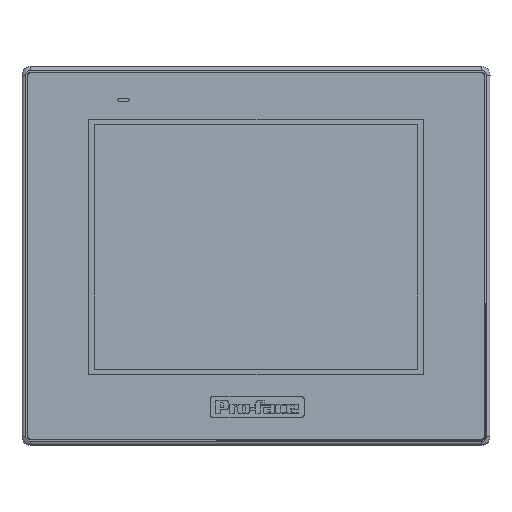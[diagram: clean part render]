
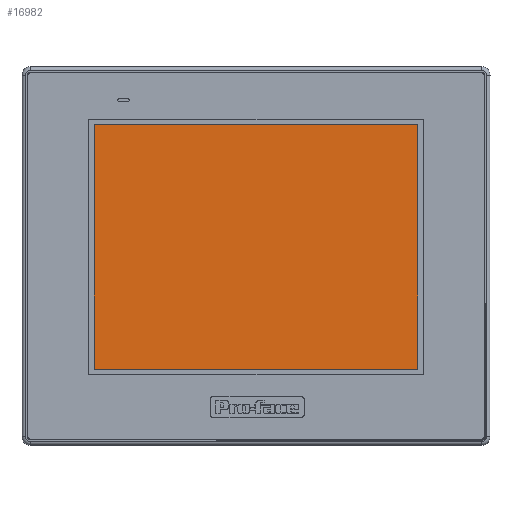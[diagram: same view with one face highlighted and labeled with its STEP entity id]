
A CAD part, top view. The second image highlights one B-rep face of the part: STEP entity #16982.
In plain terms, the highlighted planar face has unit normal (0, 0, 1).
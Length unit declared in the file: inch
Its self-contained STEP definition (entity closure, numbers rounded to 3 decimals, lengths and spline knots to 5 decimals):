
#3470=DIRECTION('',(-1.,0.,0.));
#3471=VECTOR('',#3470,4.61811);
#3472=CARTESIAN_POINT('',(5.64567,4.57087,2.35827));
#3473=LINE('',#3472,#3471);
#3478=DIRECTION('',(0.,1.,0.));
#3479=VECTOR('',#3478,3.48819);
#3480=CARTESIAN_POINT('',(5.64567,1.08268,2.35827));
#3481=LINE('',#3480,#3479);
#3486=DIRECTION('',(1.,0.,0.));
#3487=VECTOR('',#3486,4.61811);
#3488=CARTESIAN_POINT('',(1.02756,1.08268,2.35827));
#3489=LINE('',#3488,#3487);
#3494=DIRECTION('',(0.,-1.,0.));
#3495=VECTOR('',#3494,3.48819);
#3496=CARTESIAN_POINT('',(1.02756,4.57087,2.35827));
#3497=LINE('',#3496,#3495);
#11072=CARTESIAN_POINT('',(5.64567,4.57087,2.35827));
#11073=CARTESIAN_POINT('',(1.02756,4.57087,2.35827));
#11074=VERTEX_POINT('',#11072);
#11075=VERTEX_POINT('',#11073);
#11076=CARTESIAN_POINT('',(5.64567,1.08268,2.35827));
#11077=VERTEX_POINT('',#11076);
#11078=CARTESIAN_POINT('',(1.02756,1.08268,2.35827));
#11079=VERTEX_POINT('',#11078);
#16968=CARTESIAN_POINT('',(0.,0.,2.35827));
#16969=DIRECTION('',(0.,0.,1.));
#16970=DIRECTION('',(1.,0.,0.));
#16971=AXIS2_PLACEMENT_3D('',#16968,#16969,#16970);
#16972=PLANE('',#16971);
#16973=ORIENTED_EDGE('',*,*,#16958,.F.);
#16975=ORIENTED_EDGE('',*,*,#16974,.F.);
#16977=ORIENTED_EDGE('',*,*,#16976,.F.);
#16979=ORIENTED_EDGE('',*,*,#16978,.F.);
#16980=EDGE_LOOP('',(#16973,#16975,#16977,#16979));
#16981=FACE_OUTER_BOUND('',#16980,.F.);
#16982=ADVANCED_FACE('',(#16981),#16972,.T.);
#16958=EDGE_CURVE('',#11074,#11075,#3473,.T.);
#16974=EDGE_CURVE('',#11077,#11074,#3481,.T.);
#16976=EDGE_CURVE('',#11079,#11077,#3489,.T.);
#16978=EDGE_CURVE('',#11075,#11079,#3497,.T.);
